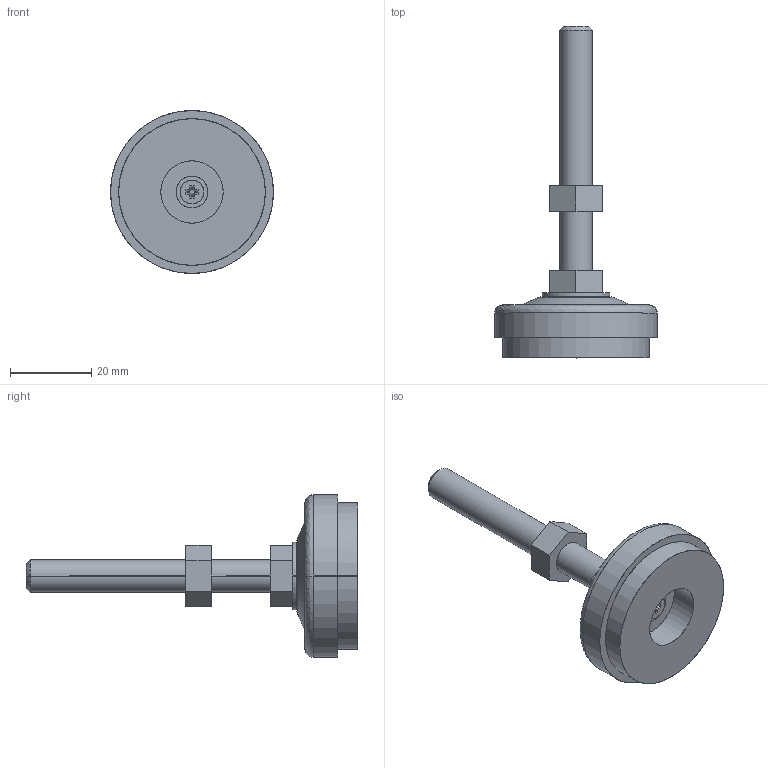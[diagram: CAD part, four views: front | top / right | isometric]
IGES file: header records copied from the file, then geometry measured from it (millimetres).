
Start section: SolidWorks IGES file using analytic representation for surfaces
Bounding box: 40 x 81.5 x 40 mm (x, y, z)
Surface area: 6494.7 mm2 (no closed solid volume)
Topology: 0 solids, 0 shells, 65 faces, 992 edges, 992 vertices
Faces by surface type: bspline 41, revolution 24
